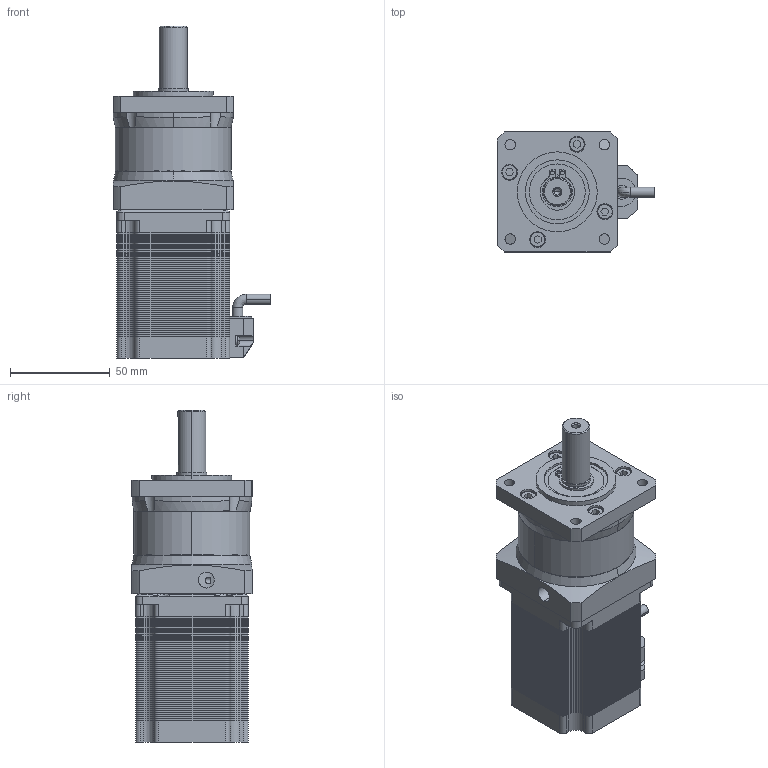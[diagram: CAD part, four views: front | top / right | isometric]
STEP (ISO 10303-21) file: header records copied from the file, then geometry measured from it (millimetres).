
FILE_DESCRIPTION (( 'STEP AP203' ), '1' );
FILE_NAME ('57CM22C-RD05.STEP', '2021-04-19T10:35:25', ( 'Owner' ), ( 'Organization' ), 'SwSTEP 2.0', 'SolidWorks 2018', '' );
FILE_SCHEMA (( 'CONFIG_CONTROL_DESIGN' ));
Length unit declared in the file: millimetre
Products named in the file (11): PLF60输入端; 57ヶ傷; 57CM22C-RD05; PLF60-输入轴; 57沺郋; 60齿圈1; M4内六角螺丝头 - 副本; 57竘堤盄; 15俋縐; PLF60怀堤傷; 57綴傷
Assembly tree (19 placements, depth 2):
  57CM22C-RD05
    PLF60怀堤傷
    M4内六角螺丝头 - 副本  x10
    15俋縐
    60齿圈1
    PLF60输入端
    PLF60-输入轴
    57沺郋
    57綴傷
    57竘堤盄
    57ヶ傷
Bounding box: 78.73 x 60 x 166 mm (x, y, z)
Volume: 385661.8 mm3; surface area: 670511.7 mm2
Topology: 126 solids, 126 shells, 3429 faces, 9302 edges, 6165 vertices
Faces by surface type: plane 1790, cylinder 1554, cone 57, bspline 28
Entity records: 107350 total; most frequent: CARTESIAN_POINT 19346, DIRECTION 18672, ORIENTED_EDGE 18028, EDGE_CURVE 9014, AXIS2_PLACEMENT_3D 6435, VERTEX_POINT 5985, LINE 5802, VECTOR 5802
